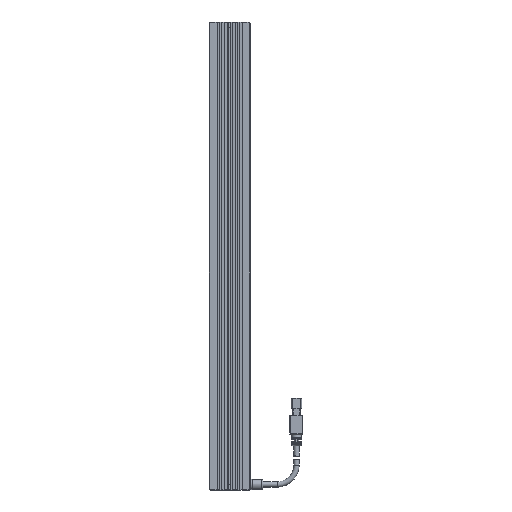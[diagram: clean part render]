
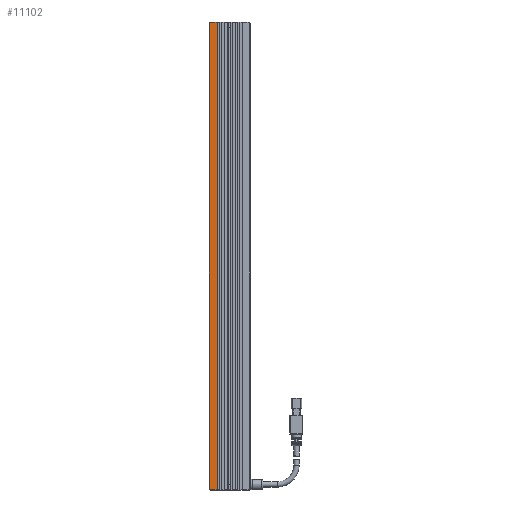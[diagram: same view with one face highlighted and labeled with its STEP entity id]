
A CAD part, top view. The second image highlights one B-rep face of the part: STEP entity #11102.
In plain terms, the highlighted planar face has unit normal (0, 0, 1).
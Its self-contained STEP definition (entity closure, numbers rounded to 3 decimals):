
#43 = ORIENTED_EDGE ( 'NONE', *, *, #2277, .F. ) ;
#354 = FACE_OUTER_BOUND ( 'NONE', #15510, .T. ) ;
#502 = DIRECTION ( 'NONE',  ( 0.707, -0.707, 0. ) ) ;
#1482 = VECTOR ( 'NONE', #8311, 1000. ) ;
#1741 = VERTEX_POINT ( 'NONE', #6435 ) ;
#1857 = DIRECTION ( 'NONE',  ( -0.707, -0.707, 0. ) ) ;
#2277 = EDGE_CURVE ( 'NONE', #5535, #2887, #14881, .T. ) ;
#2419 = ORIENTED_EDGE ( 'NONE', *, *, #6942, .T. ) ;
#2643 = LINE ( 'NONE', #10763, #16488 ) ;
#2734 = CARTESIAN_POINT ( 'NONE',  ( -15., 181., 12.5 ) ) ;
#2887 = VERTEX_POINT ( 'NONE', #3464 ) ;
#3295 = VECTOR ( 'NONE', #502, 1000. ) ;
#3464 = CARTESIAN_POINT ( 'NONE',  ( -9.7, 181., 12.5 ) ) ;
#3491 = ORIENTED_EDGE ( 'NONE', *, *, #10079, .T. ) ;
#4934 = VERTEX_POINT ( 'NONE', #6997 ) ;
#5400 = VERTEX_POINT ( 'NONE', #11022 ) ;
#5535 = VERTEX_POINT ( 'NONE', #2734 ) ;
#5936 = VECTOR ( 'NONE', #12335, 1000. ) ;
#6133 = CARTESIAN_POINT ( 'NONE',  ( -15.5, 181., 12.5 ) ) ;
#6170 = ORIENTED_EDGE ( 'NONE', *, *, #10058, .T. ) ;
#6429 = VECTOR ( 'NONE', #9920, 1000. ) ;
#6435 = CARTESIAN_POINT ( 'NONE',  ( -9.7, -181., 12.5 ) ) ;
#6644 = LINE ( 'NONE', #14234, #1482 ) ;
#6942 = EDGE_CURVE ( 'NONE', #16994, #4934, #10235, .T. ) ;
#6997 = CARTESIAN_POINT ( 'NONE',  ( -15.5, -180.5, 12.5 ) ) ;
#7313 = VECTOR ( 'NONE', #1857, 1000. ) ;
#8223 = LINE ( 'NONE', #10439, #7313 ) ;
#8311 = DIRECTION ( 'NONE',  ( 1., 0., 0. ) ) ;
#9067 = DIRECTION ( 'NONE',  ( 0., 0., -1. ) ) ;
#9651 = EDGE_CURVE ( 'NONE', #2887, #1741, #2643, .T. ) ;
#9920 = DIRECTION ( 'NONE',  ( 0., -1., 0. ) ) ;
#10058 = EDGE_CURVE ( 'NONE', #5535, #16994, #8223, .T. ) ;
#10079 = EDGE_CURVE ( 'NONE', #4934, #5400, #11127, .T. ) ;
#10235 = LINE ( 'NONE', #15611, #6429 ) ;
#10439 = CARTESIAN_POINT ( 'NONE',  ( -15., 181., 12.5 ) ) ;
#10445 = EDGE_CURVE ( 'NONE', #5400, #1741, #6644, .T. ) ;
#10763 = CARTESIAN_POINT ( 'NONE',  ( -9.7, 181., 12.5 ) ) ;
#10954 = DIRECTION ( 'NONE',  ( 0., -1., 0. ) ) ;
#11022 = CARTESIAN_POINT ( 'NONE',  ( -15., -181., 12.5 ) ) ;
#11102 = ADVANCED_FACE ( 'NONE', ( #354 ), #17417, .F. ) ;
#11127 = LINE ( 'NONE', #16190, #3295 ) ;
#12335 = DIRECTION ( 'NONE',  ( 1., 0., 0. ) ) ;
#12997 = ORIENTED_EDGE ( 'NONE', *, *, #9651, .F. ) ;
#14234 = CARTESIAN_POINT ( 'NONE',  ( -15.5, -181., 12.5 ) ) ;
#14636 = DIRECTION ( 'NONE',  ( -1., 0., 0. ) ) ;
#14881 = LINE ( 'NONE', #15300, #5936 ) ;
#15300 = CARTESIAN_POINT ( 'NONE',  ( -15.5, 181., 12.5 ) ) ;
#15510 = EDGE_LOOP ( 'NONE', ( #43, #6170, #2419, #3491, #18376, #12997 ) ) ;
#15611 = CARTESIAN_POINT ( 'NONE',  ( -15.5, 181., 12.5 ) ) ;
#16190 = CARTESIAN_POINT ( 'NONE',  ( -16., -180., 12.5 ) ) ;
#16387 = CARTESIAN_POINT ( 'NONE',  ( -15.5, 180.5, 12.5 ) ) ;
#16488 = VECTOR ( 'NONE', #10954, 1000. ) ;
#16994 = VERTEX_POINT ( 'NONE', #16387 ) ;
#17310 = AXIS2_PLACEMENT_3D ( 'NONE', #6133, #9067, #14636 ) ;
#17417 = PLANE ( 'NONE',  #17310 ) ;
#18376 = ORIENTED_EDGE ( 'NONE', *, *, #10445, .T. ) ;
